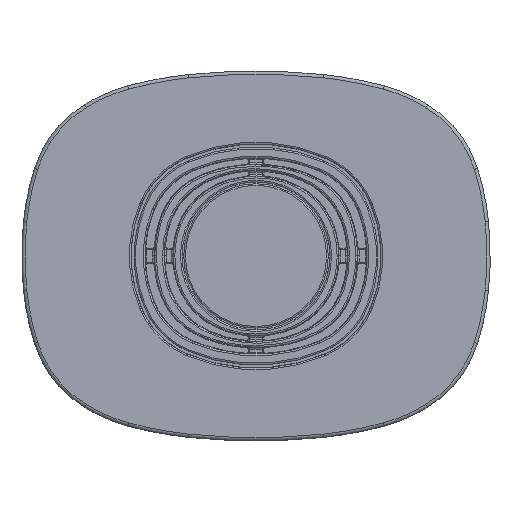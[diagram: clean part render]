
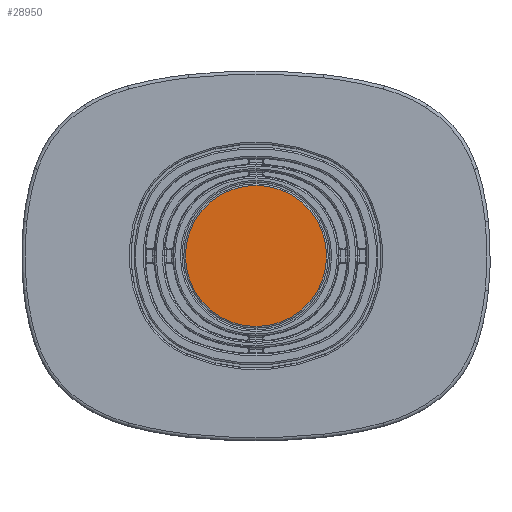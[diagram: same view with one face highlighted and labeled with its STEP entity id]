
A CAD part, top view. The second image highlights one B-rep face of the part: STEP entity #28950.
In plain terms, the highlighted planar face has unit normal (0, 0, 1).
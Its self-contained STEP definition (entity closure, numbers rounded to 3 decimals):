
#2088=PLANE('',#35855);
#8555=ORIENTED_EDGE('',*,*,#16437,.T.);
#16437=EDGE_CURVE('',#20508,#20508,#22943,.T.);
#20508=VERTEX_POINT('',#52751);
#22943=CIRCLE('',#35856,86.2);
#24699=EDGE_LOOP('',(#8555));
#26596=FACE_BOUND('',#24699,.T.);
#28950=ADVANCED_FACE('',(#26596),#2088,.T.);
#35855=AXIS2_PLACEMENT_3D('',#52749,#40608,#40609);
#35856=AXIS2_PLACEMENT_3D('',#52750,#40610,#40611);
#40608=DIRECTION('',(0.,0.,1.));
#40609=DIRECTION('',(1.,0.,0.));
#40610=DIRECTION('',(0.,0.,1.));
#40611=DIRECTION('',(1.,0.,0.));
#52749=CARTESIAN_POINT('',(-14.985,123.28,859.51));
#52750=CARTESIAN_POINT('',(0.,135.025,859.51));
#52751=CARTESIAN_POINT('',(86.2,135.025,859.51));
